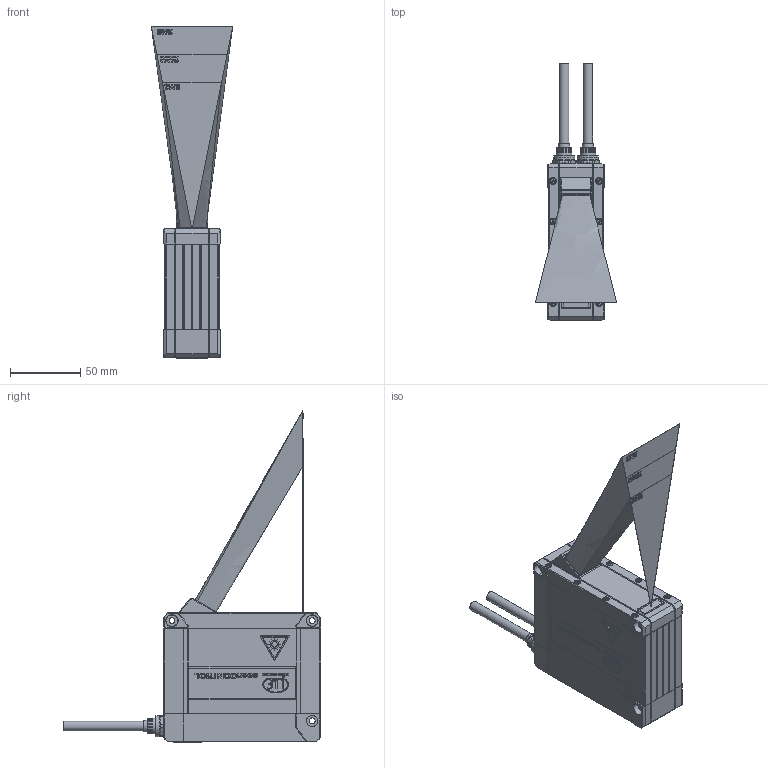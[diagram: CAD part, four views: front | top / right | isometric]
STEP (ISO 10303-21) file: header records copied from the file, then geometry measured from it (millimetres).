
FILE_DESCRIPTION (( 'STEP AP214' ), '1' );
FILE_NAME ('LLT30xx-50.STEP', '2022-11-29T09:00:22', ( '' ), ( '' ), 'SwSTEP 2.0', 'SolidWorks 2020', '' );
FILE_SCHEMA (( 'AUTOMOTIVE_DESIGN' ));
Length unit declared in the file: millimetre
Products named in the file (7): MMR; Sensor; Field of View; SMR; Measurementrange; EMR; LLT30xx-50
Assembly tree (6 placements, depth 3):
  LLT30xx-50
    Measurementrange
      SMR
      MMR
      EMR
    Field of View
    Sensor
Bounding box: 58 x 183.4 x 236.75 mm (x, y, z)
Volume: 497040.9 mm3; surface area: 86829 mm2
Topology: 5 solids, 31 shells, 6631 faces, 18763 edges, 12382 vertices
Faces by surface type: plane 5437, bspline 780, cylinder 280, cone 100, torus 34
Full cylindrical faces by diameter (mm): 2 x16, 2.4 x19, 3.8 x16, 4.2 x3, 4.4 x16, 6.8 x4, 8 x4, 9.2 x2, 10.268 x2, 10.75 x2, 10.8 x2, 11.2 x2, 13 x2, 13.5 x2, 15 x2
Entity records: 317799 total; most frequent: CARTESIAN_POINT 79346, ORIENTED_EDGE 36876, DIRECTION 29316, EDGE_CURVE 18438, VECTOR 15878, LINE 15878, VERTEX_POINT 12277, EDGE_LOOP 7113
